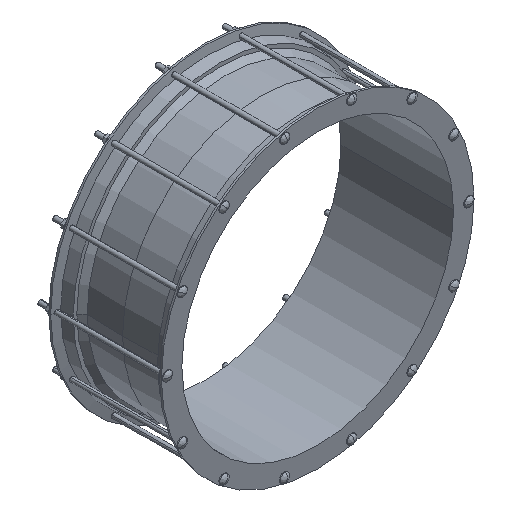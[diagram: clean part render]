
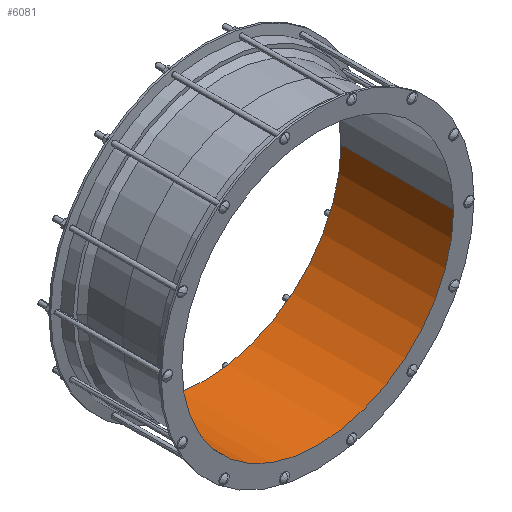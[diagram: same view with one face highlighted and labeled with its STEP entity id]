
A CAD part, isometric view. The second image highlights one B-rep face of the part: STEP entity #6081.
In plain terms, the highlighted cylindrical face has radius 364.5 mm (diameter 729 mm), a partial arc.
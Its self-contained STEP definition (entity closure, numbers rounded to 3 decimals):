
#2095=CARTESIAN_POINT('',(0.,151.,0.));
#2096=DIRECTION('',(0.,-1.,0.));
#2097=DIRECTION('',(-1.,0.,0.));
#2098=AXIS2_PLACEMENT_3D('',#2095,#2096,#2097);
#2245=CARTESIAN_POINT('',(0.,-151.,0.));
#2246=DIRECTION('',(0.,-1.,0.));
#2247=DIRECTION('',(-1.,0.,0.));
#2248=AXIS2_PLACEMENT_3D('',#2245,#2246,#2247);
#2250=DIRECTION('',(0.,1.,0.));
#2251=VECTOR('',#2250,302.);
#2252=CARTESIAN_POINT('',(-364.5,-151.,0.));
#2253=LINE('',#2252,#2251);
#2259=DIRECTION('',(0.,1.,0.));
#2260=VECTOR('',#2259,302.);
#2261=CARTESIAN_POINT('',(364.5,-151.,0.));
#2262=LINE('',#2261,#2260);
#4530=CARTESIAN_POINT('',(-364.5,-151.,0.));
#4531=CARTESIAN_POINT('',(-364.5,151.,0.));
#4532=VERTEX_POINT('',#4530);
#4533=VERTEX_POINT('',#4531);
#4548=CARTESIAN_POINT('',(364.5,-151.,0.));
#4549=CARTESIAN_POINT('',(364.5,151.,0.));
#4550=VERTEX_POINT('',#4548);
#4551=VERTEX_POINT('',#4549);
#6067=CARTESIAN_POINT('',(0.,166.1,0.));
#6068=DIRECTION('',(0.,-1.,0.));
#6069=DIRECTION('',(-1.,0.,0.));
#6070=AXIS2_PLACEMENT_3D('',#6067,#6068,#6069);
#6071=CYLINDRICAL_SURFACE('',#6070,364.5);
#6073=ORIENTED_EDGE('',*,*,#6072,.T.);
#6074=ORIENTED_EDGE('',*,*,#5977,.T.);
#6076=ORIENTED_EDGE('',*,*,#6075,.F.);
#6078=ORIENTED_EDGE('',*,*,#6077,.F.);
#6079=EDGE_LOOP('',(#6073,#6074,#6076,#6078));
#6080=FACE_OUTER_BOUND('',#6079,.F.);
#6081=ADVANCED_FACE('',(#6080),#6071,.F.);
#2099=CIRCLE('',#2098,364.5);
#2249=CIRCLE('',#2248,364.5);
#5977=EDGE_CURVE('',#4533,#4551,#2099,.T.);
#6072=EDGE_CURVE('',#4532,#4533,#2253,.T.);
#6075=EDGE_CURVE('',#4550,#4551,#2262,.T.);
#6077=EDGE_CURVE('',#4532,#4550,#2249,.T.);
